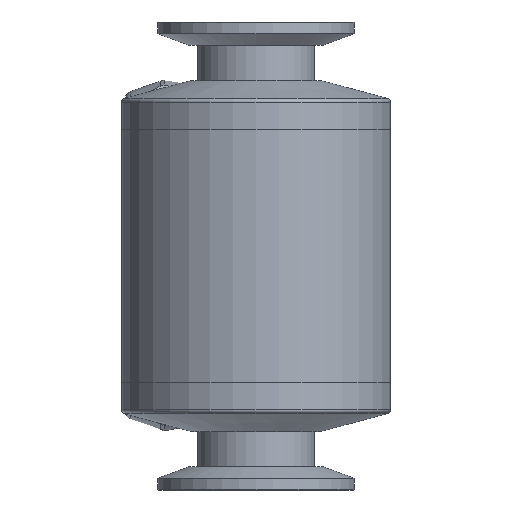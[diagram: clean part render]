
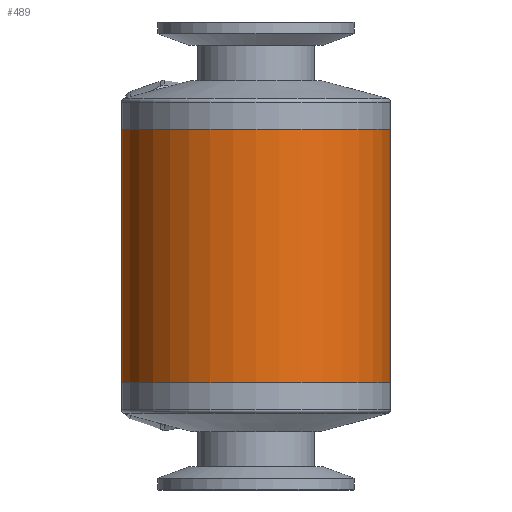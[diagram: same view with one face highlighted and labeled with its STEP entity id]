
A CAD part, front view. The second image highlights one B-rep face of the part: STEP entity #489.
In plain terms, the highlighted cylindrical face has radius 34.5 mm (diameter 69 mm), a full revolution.
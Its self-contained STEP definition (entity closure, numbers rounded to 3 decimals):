
#31=ELLIPSE('',#1973,48.79,34.5);
#32=ELLIPSE('',#1974,48.79,34.5);
#47=LINE('',#5979,#61);
#48=LINE('',#5983,#62);
#61=VECTOR('',#2457,1.);
#62=VECTOR('',#2460,1.);
#363=CYLINDRICAL_SURFACE('',#1977,34.5);
#489=ADVANCED_FACE('',(#686,#687,#688),#363,.T.);
#686=FACE_BOUND('',#893,.T.);
#687=FACE_BOUND('',#894,.T.);
#688=FACE_BOUND('',#895,.T.);
#893=EDGE_LOOP('',(#1267,#1268,#1269,#1270));
#894=EDGE_LOOP('',(#1271));
#895=EDGE_LOOP('',(#1272));
#1267=ORIENTED_EDGE('',*,*,#1622,.T.);
#1268=ORIENTED_EDGE('',*,*,#1623,.F.);
#1269=ORIENTED_EDGE('',*,*,#1624,.T.);
#1270=ORIENTED_EDGE('',*,*,#1625,.F.);
#1271=ORIENTED_EDGE('',*,*,#1626,.F.);
#1272=ORIENTED_EDGE('',*,*,#1627,.T.);
#1433=VERTEX_POINT('',#5977);
#1434=VERTEX_POINT('',#5978);
#1435=VERTEX_POINT('',#5980);
#1436=VERTEX_POINT('',#5982);
#1437=VERTEX_POINT('',#5985);
#1438=VERTEX_POINT('',#5987);
#1622=EDGE_CURVE('',#1433,#1434,#31,.T.);
#1623=EDGE_CURVE('',#1435,#1434,#47,.T.);
#1624=EDGE_CURVE('',#1435,#1436,#32,.T.);
#1625=EDGE_CURVE('',#1433,#1436,#48,.T.);
#1626=EDGE_CURVE('',#1437,#1437,#1740,.T.);
#1627=EDGE_CURVE('',#1438,#1438,#1741,.T.);
#1740=CIRCLE('',#1975,34.5);
#1741=CIRCLE('',#1976,34.5);
#1973=AXIS2_PLACEMENT_3D('',#5976,#2455,#2456);
#1974=AXIS2_PLACEMENT_3D('',#5981,#2458,#2459);
#1975=AXIS2_PLACEMENT_3D('',#5984,#2461,#2462);
#1976=AXIS2_PLACEMENT_3D('',#5986,#2463,#2464);
#1977=AXIS2_PLACEMENT_3D('',#5988,#2465,#2466);
#2455=DIRECTION('',(0.,-0.707,0.707));
#2456=DIRECTION('',(0.,0.707,0.707));
#2457=DIRECTION('',(0.,0.,1.));
#2458=DIRECTION('',(0.,-0.707,-0.707));
#2459=DIRECTION('',(0.,-0.707,0.707));
#2460=DIRECTION('',(0.,0.,-1.));
#2461=DIRECTION('',(0.,0.,1.));
#2462=DIRECTION('',(1.,0.,0.));
#2463=DIRECTION('',(0.,0.,1.));
#2464=DIRECTION('',(1.,0.,0.));
#2465=DIRECTION('',(0.,0.,1.));
#2466=DIRECTION('',(1.,0.,0.));
#5976=CARTESIAN_POINT('',(153.125,0.938,-18.));
#5977=CARTESIAN_POINT('',(166.019,32.938,14.));
#5978=CARTESIAN_POINT('',(140.231,32.938,14.));
#5979=CARTESIAN_POINT('',(140.231,32.938,-4.375));
#5980=CARTESIAN_POINT('',(140.231,32.938,-14.));
#5981=CARTESIAN_POINT('',(153.125,0.938,18.));
#5982=CARTESIAN_POINT('',(166.019,32.938,-14.));
#5983=CARTESIAN_POINT('',(166.019,32.938,-4.375));
#5984=CARTESIAN_POINT('',(153.125,0.938,32.5));
#5985=CARTESIAN_POINT('',(187.625,0.938,32.5));
#5986=CARTESIAN_POINT('',(153.125,0.938,-32.5));
#5987=CARTESIAN_POINT('',(187.625,0.938,-32.5));
#5988=CARTESIAN_POINT('',(153.125,0.938,-4.375));
